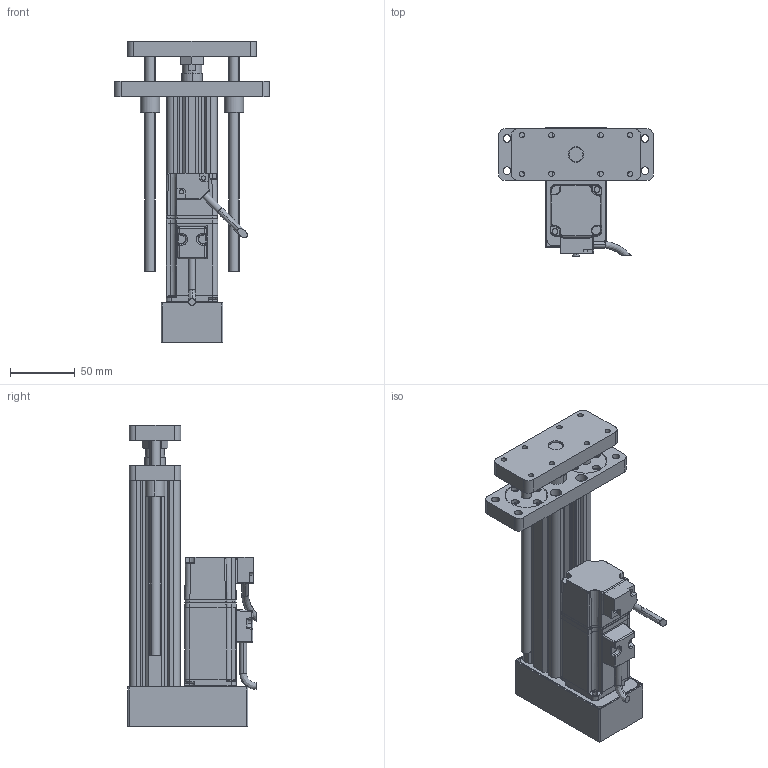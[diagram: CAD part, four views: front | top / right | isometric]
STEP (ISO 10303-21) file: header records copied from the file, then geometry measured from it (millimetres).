
FILE_DESCRIPTION (( 'STEP AP214' ), '1' );
FILE_NAME ('039-S100-D02-B-M3-C5-2.STEP', '2021-02-26T00:50:07', ( '' ), ( '' ), 'SwSTEP 2.0', 'SolidWorks 2018', '' );
FILE_SCHEMA (( 'AUTOMOTIVE_DESIGN' ));
Length unit declared in the file: millimetre
Products named in the file (11): CMC039-DB; CMC039-XT; 039-S100-D02-B-M3-C5-2; LME01-d8; CMC039-GT; CMC039-LJB; CMC039-DT; CMC039-DZ; CMC039-FL; GB／T6172．1-2000六角薄螺母A级和B级M12; ECMA-CX0401ES-40框號系列機種-100W低慣量系列
Assembly tree (12 placements, depth 2):
  039-S100-D02-B-M3-C5-2
    CMC039-GT
    CMC039-LJB
    CMC039-XT
    CMC039-FL
    CMC039-DT
    ECMA-CX0401ES-40框號系列機種-100W低慣量系列
    LME01-d8  x2
    CMC039-DB
    GB／T6172．1-2000六角薄螺母A级和B级M12
    CMC039-DZ  x2
Bounding box: 120 x 99.39 x 234 mm (x, y, z)
Volume: 481819.9 mm3; surface area: 167386.7 mm2
Topology: 12 solids, 20 shells, 766 faces, 1956 edges, 1223 vertices
Faces by surface type: cylinder 336, plane 275, bspline 88, cone 67
Entity records: 28536 total; most frequent: CARTESIAN_POINT 11352, ORIENTED_EDGE 3654, DIRECTION 3059, EDGE_CURVE 1827, VERTEX_POINT 1164, AXIS2_PLACEMENT_3D 1094, VECTOR 871, LINE 871
